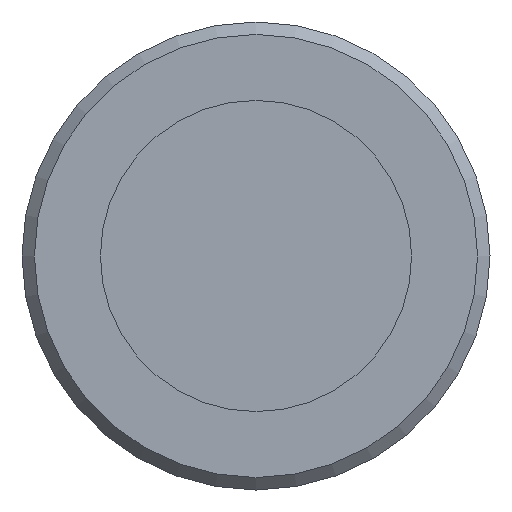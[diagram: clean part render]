
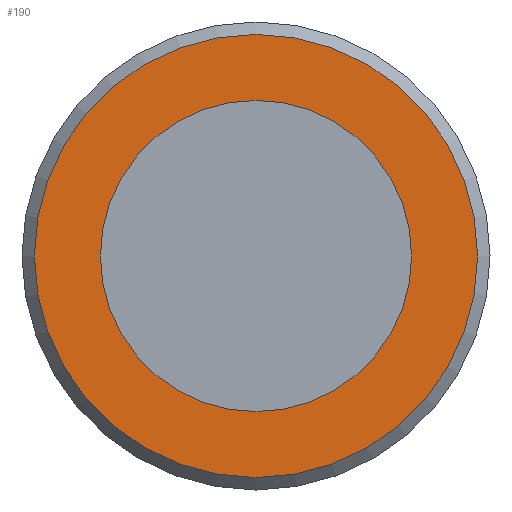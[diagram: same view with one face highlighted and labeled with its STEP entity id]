
A CAD part, left-side view. The second image highlights one B-rep face of the part: STEP entity #190.
In plain terms, the highlighted planar face has unit normal (-1, 0, 0).
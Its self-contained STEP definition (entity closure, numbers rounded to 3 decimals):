
#19=PLANE($,#219);
#33=FACE_BOUND($,#70,.T.);
#34=FACE_BOUND($,#71,.T.);
#70=EDGE_LOOP($,(#145));
#71=EDGE_LOOP($,(#146));
#86=CIRCLE($,#207,1.588);
#92=CIRCLE($,#220,2.261);
#101=VERTEX_POINT($,#307);
#107=VERTEX_POINT($,#326);
#116=EDGE_CURVE($,#101,#101,#86,.T.);
#122=EDGE_CURVE($,#107,#107,#92,.T.);
#145=ORIENTED_EDGE($,*,*,#116,.T.);
#146=ORIENTED_EDGE($,*,*,#122,.F.);
#190=ADVANCED_FACE($,(#33,#34),#19,.T.);
#207=AXIS2_PLACEMENT_3D($,#308,#248,#249);
#219=AXIS2_PLACEMENT_3D($,#325,#272,#273);
#220=AXIS2_PLACEMENT_3D($,#327,#274,#275);
#248=DIRECTION('center_axis',(1.,0.,0.));
#249=DIRECTION('ref_axis',(0.,1.,0.));
#272=DIRECTION('center_axis',(-1.,0.,0.));
#273=DIRECTION('ref_axis',(0.,0.,1.));
#274=DIRECTION('center_axis',(1.,0.,0.));
#275=DIRECTION('ref_axis',(0.,-1.,0.));
#307=CARTESIAN_POINT('',(-15.791,5.645,0.));
#308=CARTESIAN_POINT('Origin',(-15.791,4.057,0.));
#325=CARTESIAN_POINT('Origin',(-15.791,5.251,0.));
#326=CARTESIAN_POINT('',(-15.791,6.318,0.));
#327=CARTESIAN_POINT('Origin',(-15.791,4.057,0.));
